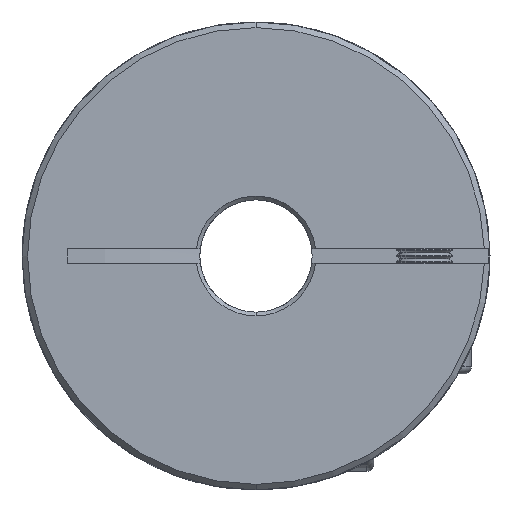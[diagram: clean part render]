
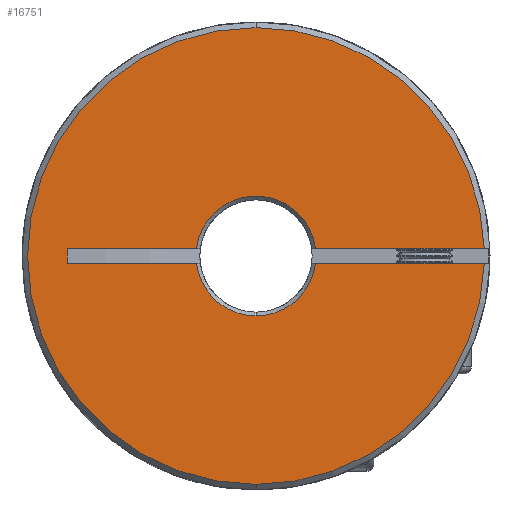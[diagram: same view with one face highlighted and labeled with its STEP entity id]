
A CAD part, front view. The second image highlights one B-rep face of the part: STEP entity #16751.
In plain terms, the highlighted planar face has unit normal (0, -1, 0).
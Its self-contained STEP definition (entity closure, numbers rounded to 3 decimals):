
#9 = ORIENTED_EDGE ( 'NONE', *, *, #13436, .T. ) ;
#199 = CARTESIAN_POINT ( 'NONE',  ( 0., 0., 0. ) ) ;
#208 = VERTEX_POINT ( 'NONE', #10625 ) ;
#213 = CARTESIAN_POINT ( 'NONE',  ( 6.356, 0., 0.75 ) ) ;
#227 = DIRECTION ( 'NONE',  ( 0., -1., 0. ) ) ;
#583 = CIRCLE ( 'NONE', #5376, 24.4 ) ;
#834 = CARTESIAN_POINT ( 'NONE',  ( -50., 0., -0.75 ) ) ;
#985 = LINE ( 'NONE', #15275, #4731 ) ;
#1209 = DIRECTION ( 'NONE',  ( 1., 0., 0. ) ) ;
#1426 = DIRECTION ( 'NONE',  ( 0., 0., 1. ) ) ;
#1571 = CARTESIAN_POINT ( 'NONE',  ( 0., 0., 0. ) ) ;
#1643 = CIRCLE ( 'NONE', #2679, 24.4 ) ;
#2438 = VERTEX_POINT ( 'NONE', #4336 ) ;
#2483 = VECTOR ( 'NONE', #6056, 1000. ) ;
#2544 = ORIENTED_EDGE ( 'NONE', *, *, #15214, .T. ) ;
#2679 = AXIS2_PLACEMENT_3D ( 'NONE', #14968, #227, #3131 ) ;
#2823 = CARTESIAN_POINT ( 'NONE',  ( -50., 0., 32.858 ) ) ;
#3131 = DIRECTION ( 'NONE',  ( 0., 0., 1. ) ) ;
#3474 = CIRCLE ( 'NONE', #14876, 6.4 ) ;
#4122 = CARTESIAN_POINT ( 'NONE',  ( -20.149, 0., -0.75 ) ) ;
#4336 = CARTESIAN_POINT ( 'NONE',  ( 0., 0., -24.4 ) ) ;
#4575 = DIRECTION ( 'NONE',  ( 0., 0., 1. ) ) ;
#4731 = VECTOR ( 'NONE', #5755, 1000. ) ;
#4764 = VERTEX_POINT ( 'NONE', #10319 ) ;
#4825 = ORIENTED_EDGE ( 'NONE', *, *, #7315, .T. ) ;
#4898 = VERTEX_POINT ( 'NONE', #213 ) ;
#4993 = LINE ( 'NONE', #834, #2483 ) ;
#5159 = ORIENTED_EDGE ( 'NONE', *, *, #13254, .T. ) ;
#5346 = EDGE_CURVE ( 'NONE', #15170, #208, #11660, .T. ) ;
#5376 = AXIS2_PLACEMENT_3D ( 'NONE', #199, #12468, #5647 ) ;
#5647 = DIRECTION ( 'NONE',  ( 0., 0., 1. ) ) ;
#5755 = DIRECTION ( 'NONE',  ( 1., 0., 0. ) ) ;
#6056 = DIRECTION ( 'NONE',  ( 1., 0., 0. ) ) ;
#6122 = DIRECTION ( 'NONE',  ( 0., -1., 0. ) ) ;
#6221 = AXIS2_PLACEMENT_3D ( 'NONE', #12796, #6122, #14220 ) ;
#6414 = VECTOR ( 'NONE', #1209, 1000. ) ;
#6473 = EDGE_CURVE ( 'NONE', #11622, #9918, #8913, .T. ) ;
#6483 = CARTESIAN_POINT ( 'NONE',  ( -50., 0., 0.75 ) ) ;
#6514 = AXIS2_PLACEMENT_3D ( 'NONE', #16677, #7359, #4575 ) ;
#6878 = VECTOR ( 'NONE', #10120, 1000. ) ;
#6971 = AXIS2_PLACEMENT_3D ( 'NONE', #14039, #14105, #8806 ) ;
#7315 = EDGE_CURVE ( 'NONE', #4898, #15215, #15029, .T. ) ;
#7359 = DIRECTION ( 'NONE',  ( 0., 1., 0. ) ) ;
#7521 = CARTESIAN_POINT ( 'NONE',  ( -6.356, 0., -0.75 ) ) ;
#7654 = EDGE_CURVE ( 'NONE', #9918, #17469, #13335, .T. ) ;
#7931 = ORIENTED_EDGE ( 'NONE', *, *, #5346, .T. ) ;
#8123 = LINE ( 'NONE', #8758, #6878 ) ;
#8158 = CIRCLE ( 'NONE', #6221, 24.4 ) ;
#8318 = CARTESIAN_POINT ( 'NONE',  ( 0., 0., 24.4 ) ) ;
#8589 = ORIENTED_EDGE ( 'NONE', *, *, #7654, .T. ) ;
#8692 = CARTESIAN_POINT ( 'NONE',  ( 24.388, 0., 0.75 ) ) ;
#8758 = CARTESIAN_POINT ( 'NONE',  ( -20.149, 0., -0.75 ) ) ;
#8806 = DIRECTION ( 'NONE',  ( 0., 0., 1. ) ) ;
#8913 = CIRCLE ( 'NONE', #6971, 6.4 ) ;
#9083 = DIRECTION ( 'NONE',  ( 1., 0., 0. ) ) ;
#9462 = DIRECTION ( 'NONE',  ( 0., 1., 0. ) ) ;
#9789 = ORIENTED_EDGE ( 'NONE', *, *, #16271, .T. ) ;
#9918 = VERTEX_POINT ( 'NONE', #16688 ) ;
#10120 = DIRECTION ( 'NONE',  ( 0., 0., 1. ) ) ;
#10319 = CARTESIAN_POINT ( 'NONE',  ( 24.388, 0., -0.75 ) ) ;
#10625 = CARTESIAN_POINT ( 'NONE',  ( -6.356, 0., 0.75 ) ) ;
#10941 = ORIENTED_EDGE ( 'NONE', *, *, #15191, .F. ) ;
#11161 = VERTEX_POINT ( 'NONE', #8318 ) ;
#11466 = FACE_OUTER_BOUND ( 'NONE', #17094, .T. ) ;
#11622 = VERTEX_POINT ( 'NONE', #12240 ) ;
#11660 = LINE ( 'NONE', #6483, #6414 ) ;
#12240 = CARTESIAN_POINT ( 'NONE',  ( 6.356, 0., -0.75 ) ) ;
#12468 = DIRECTION ( 'NONE',  ( 0., -1., 0. ) ) ;
#12601 = AXIS2_PLACEMENT_3D ( 'NONE', #2823, #9462, #1426 ) ;
#12622 = CARTESIAN_POINT ( 'NONE',  ( -20.149, 0., 0.75 ) ) ;
#12780 = EDGE_CURVE ( 'NONE', #15215, #11161, #1643, .T. ) ;
#12796 = CARTESIAN_POINT ( 'NONE',  ( 0., 0., 0. ) ) ;
#12887 = ORIENTED_EDGE ( 'NONE', *, *, #16804, .F. ) ;
#13154 = VERTEX_POINT ( 'NONE', #4122 ) ;
#13254 = EDGE_CURVE ( 'NONE', #2438, #4764, #583, .T. ) ;
#13335 = CIRCLE ( 'NONE', #6514, 6.4 ) ;
#13436 = EDGE_CURVE ( 'NONE', #13154, #15170, #8123, .T. ) ;
#14039 = CARTESIAN_POINT ( 'NONE',  ( 0., 0., 0. ) ) ;
#14105 = DIRECTION ( 'NONE',  ( 0., 1., 0. ) ) ;
#14220 = DIRECTION ( 'NONE',  ( 0., 0., 1. ) ) ;
#14876 = AXIS2_PLACEMENT_3D ( 'NONE', #1571, #15016, #15179 ) ;
#14968 = CARTESIAN_POINT ( 'NONE',  ( 0., 0., 0. ) ) ;
#15016 = DIRECTION ( 'NONE',  ( 0., 1., 0. ) ) ;
#15029 = LINE ( 'NONE', #17171, #16263 ) ;
#15170 = VERTEX_POINT ( 'NONE', #12622 ) ;
#15179 = DIRECTION ( 'NONE',  ( 0., 0., 1. ) ) ;
#15191 = EDGE_CURVE ( 'NONE', #13154, #17469, #4993, .T. ) ;
#15214 = EDGE_CURVE ( 'NONE', #11161, #2438, #8158, .T. ) ;
#15215 = VERTEX_POINT ( 'NONE', #8692 ) ;
#15275 = CARTESIAN_POINT ( 'NONE',  ( -50., 0., -0.75 ) ) ;
#15907 = ORIENTED_EDGE ( 'NONE', *, *, #12780, .T. ) ;
#16053 = ORIENTED_EDGE ( 'NONE', *, *, #6473, .T. ) ;
#16263 = VECTOR ( 'NONE', #9083, 1000. ) ;
#16271 = EDGE_CURVE ( 'NONE', #208, #4898, #3474, .T. ) ;
#16325 = PLANE ( 'NONE',  #12601 ) ;
#16677 = CARTESIAN_POINT ( 'NONE',  ( 0., 0., 0. ) ) ;
#16688 = CARTESIAN_POINT ( 'NONE',  ( 0., 0., -6.4 ) ) ;
#16751 = ADVANCED_FACE ( 'NONE', ( #11466 ), #16325, .F. ) ;
#16804 = EDGE_CURVE ( 'NONE', #11622, #4764, #985, .T. ) ;
#17094 = EDGE_LOOP ( 'NONE', ( #12887, #16053, #8589, #10941, #9, #7931, #9789, #4825, #15907, #2544, #5159 ) ) ;
#17171 = CARTESIAN_POINT ( 'NONE',  ( -50., 0., 0.75 ) ) ;
#17469 = VERTEX_POINT ( 'NONE', #7521 ) ;
